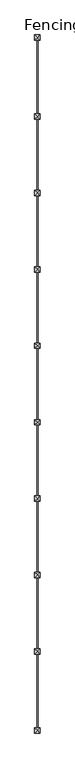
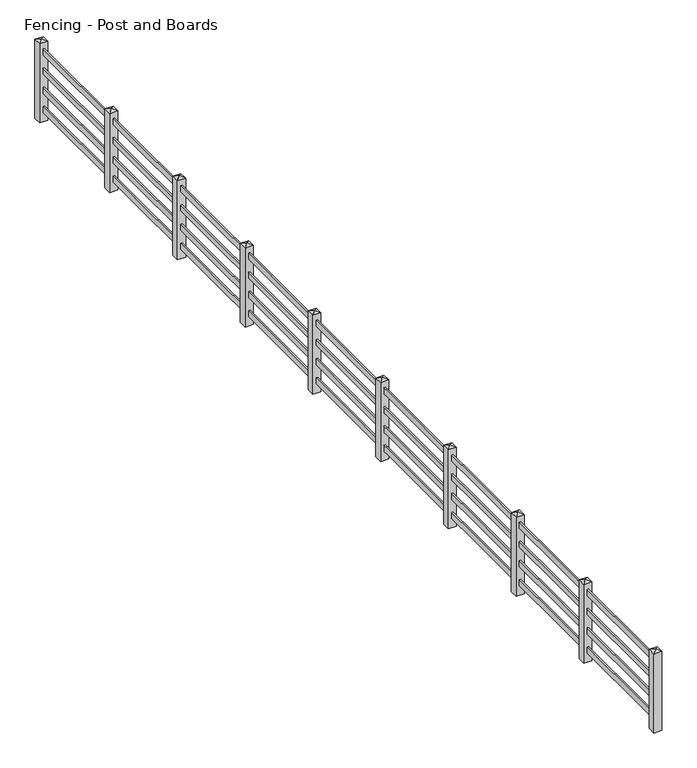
"""IFC4 building model written with IfcOpenShell, lengths in millimetres: railing geometry, Fencing - Post and Boards."""

from ifc_helpers import new_model, si_unit, frame, origin, place, context, project, spatial, polyline, outline, extrude, faceted_brep, source, transform, mapped, element, save


def fencing_post_and_boards_368ce008(model_context):
    return source(origin(), model_context, "Body", "SolidModel", [
        extrude(outline(polyline([(56783.4324334, -56479.0868221), (56763.4324334, -56479.0868221), (56763.4324334, -43479.0868221), (56783.4324334, -43479.0868221), (56783.4324334, -56479.0868221)])), frame((0.0, 0.0, 875.0), z_axis=(0.0, 0.0, 1.0), x_axis=(1.0, 0.0, 0.0)), (0.0, 0.0, 1.0), 75.0),
        extrude(outline(polyline([(56783.4324334, -56479.0868221), (56763.4324334, -56479.0868221), (56763.4324334, -43479.0868221), (56783.4324334, -43479.0868221), (56783.4324334, -56479.0868221)])), frame((0.0, 0.0, 625.0), z_axis=(0.0, 0.0, 1.0), x_axis=(1.0, 0.0, 0.0)), (0.0, 0.0, 1.0), 75.0),
        extrude(outline(polyline([(56783.4324334, -56479.0868221), (56763.4324334, -56479.0868221), (56763.4324334, -43479.0868221), (56783.4324334, -43479.0868221), (56783.4324334, -56479.0868221)])), frame((0.0, 0.0, 375.0), z_axis=(0.0, 0.0, 1.0), x_axis=(1.0, 0.0, 0.0)), (0.0, 0.0, 1.0), 75.0),
        extrude(outline(polyline([(56783.4324334, -56479.0868221), (56763.4324334, -56479.0868221), (56763.4324334, -43479.0868221), (56783.4324334, -43479.0868221), (56783.4324334, -56479.0868221)])), frame((0.0, 0.0, 125.0), z_axis=(0.0, 0.0, 1.0), x_axis=(1.0, 0.0, 0.0)), (0.0, 0.0, 1.0), 75.0),
        faceted_brep([(56723.4324334, -44873.5312665, 0.0), (56823.4324334, -44873.5312665, 0.0), (56823.4324334, -44973.5312665, 0.0), (56723.4324334, -44973.5312665, 0.0), (56723.4324334, -44973.5312665, 1027.8503862), (56723.4324334, -44873.5312665, 1027.8503862), (56823.4324334, -44973.5312665, 1027.8503862), (56823.4324334, -44873.5312665, 1027.8503862), (56773.4324334, -44923.5312665, 1050.0)], [[[0, 1, 2, 3]], [[0, 3, 4, 5]], [[3, 2, 6, 4]], [[2, 1, 7, 6]], [[1, 0, 5, 7]], [[5, 4, 8]], [[6, 7, 8]], [[7, 5, 8]], [[4, 6, 8]]]),
        faceted_brep([(56723.4324334, -46317.975711, 0.0), (56823.4324334, -46317.975711, 0.0), (56823.4324334, -46417.975711, 0.0), (56723.4324334, -46417.975711, 0.0), (56723.4324334, -46417.975711, 1027.8503862), (56723.4324334, -46317.975711, 1027.8503862), (56823.4324334, -46417.975711, 1027.8503862), (56823.4324334, -46317.975711, 1027.8503862), (56773.4324334, -46367.975711, 1050.0)], [[[0, 1, 2, 3]], [[0, 3, 4, 5]], [[3, 2, 6, 4]], [[2, 1, 7, 6]], [[1, 0, 5, 7]], [[5, 4, 8]], [[6, 7, 8]], [[7, 5, 8]], [[4, 6, 8]]]),
        faceted_brep([(56723.4324334, -47762.4201554, 0.0), (56823.4324334, -47762.4201554, 0.0), (56823.4324334, -47862.4201554, 0.0), (56723.4324334, -47862.4201554, 0.0), (56723.4324334, -47862.4201554, 1027.8503862), (56723.4324334, -47762.4201554, 1027.8503862), (56823.4324334, -47862.4201554, 1027.8503862), (56823.4324334, -47762.4201554, 1027.8503862), (56773.4324334, -47812.4201554, 1050.0)], [[[0, 1, 2, 3]], [[0, 3, 4, 5]], [[3, 2, 6, 4]], [[2, 1, 7, 6]], [[1, 0, 5, 7]], [[5, 4, 8]], [[6, 7, 8]], [[7, 5, 8]], [[4, 6, 8]]]),
        faceted_brep([(56723.4324334, -49206.8645998, 0.0), (56823.4324334, -49206.8645998, 0.0), (56823.4324334, -49306.8645998, 0.0), (56723.4324334, -49306.8645998, 0.0), (56723.4324334, -49306.8645998, 1027.8503862), (56723.4324334, -49206.8645998, 1027.8503862), (56823.4324334, -49306.8645998, 1027.8503862), (56823.4324334, -49206.8645998, 1027.8503862), (56773.4324334, -49256.8645998, 1050.0)], [[[0, 1, 2, 3]], [[0, 3, 4, 5]], [[3, 2, 6, 4]], [[2, 1, 7, 6]], [[1, 0, 5, 7]], [[5, 4, 8]], [[6, 7, 8]], [[7, 5, 8]], [[4, 6, 8]]]),
        faceted_brep([(56723.4324334, -50651.3090443, 0.0), (56823.4324334, -50651.3090443, 0.0), (56823.4324334, -50751.3090443, 0.0), (56723.4324334, -50751.3090443, 0.0), (56723.4324334, -50751.3090443, 1027.8503862), (56723.4324334, -50651.3090443, 1027.8503862), (56823.4324334, -50751.3090443, 1027.8503862), (56823.4324334, -50651.3090443, 1027.8503862), (56773.4324334, -50701.3090443, 1050.0)], [[[0, 1, 2, 3]], [[0, 3, 4, 5]], [[3, 2, 6, 4]], [[2, 1, 7, 6]], [[1, 0, 5, 7]], [[5, 4, 8]], [[6, 7, 8]], [[7, 5, 8]], [[4, 6, 8]]]),
        faceted_brep([(56723.4324334, -52095.7534887, 0.0), (56823.4324334, -52095.7534887, 0.0), (56823.4324334, -52195.7534887, 0.0), (56723.4324334, -52195.7534887, 0.0), (56723.4324334, -52195.7534887, 1027.8503862), (56723.4324334, -52095.7534887, 1027.8503862), (56823.4324334, -52195.7534887, 1027.8503862), (56823.4324334, -52095.7534887, 1027.8503862), (56773.4324334, -52145.7534887, 1050.0)], [[[0, 1, 2, 3]], [[0, 3, 4, 5]], [[3, 2, 6, 4]], [[2, 1, 7, 6]], [[1, 0, 5, 7]], [[5, 4, 8]], [[6, 7, 8]], [[7, 5, 8]], [[4, 6, 8]]]),
        faceted_brep([(56723.4324334, -53540.1979332, 0.0), (56823.4324334, -53540.1979332, 0.0), (56823.4324334, -53640.1979332, 0.0), (56723.4324334, -53640.1979332, 0.0), (56723.4324334, -53640.1979332, 1027.8503862), (56723.4324334, -53540.1979332, 1027.8503862), (56823.4324334, -53640.1979332, 1027.8503862), (56823.4324334, -53540.1979332, 1027.8503862), (56773.4324334, -53590.1979332, 1050.0)], [[[0, 1, 2, 3]], [[0, 3, 4, 5]], [[3, 2, 6, 4]], [[2, 1, 7, 6]], [[1, 0, 5, 7]], [[5, 4, 8]], [[6, 7, 8]], [[7, 5, 8]], [[4, 6, 8]]]),
        faceted_brep([(56723.4324334, -54984.6423776, 0.0), (56823.4324334, -54984.6423776, 0.0), (56823.4324334, -55084.6423776, 0.0), (56723.4324334, -55084.6423776, 0.0), (56723.4324334, -55084.6423776, 1027.8503862), (56723.4324334, -54984.6423776, 1027.8503862), (56823.4324334, -55084.6423776, 1027.8503862), (56823.4324334, -54984.6423776, 1027.8503862), (56773.4324334, -55034.6423776, 1050.0)], [[[0, 1, 2, 3]], [[0, 3, 4, 5]], [[3, 2, 6, 4]], [[2, 1, 7, 6]], [[1, 0, 5, 7]], [[5, 4, 8]], [[6, 7, 8]], [[7, 5, 8]], [[4, 6, 8]]]),
        faceted_brep([(56723.4324334, -43379.0868221, 0.0), (56823.4324334, -43379.0868221, 0.0), (56823.4324334, -43479.0868221, 0.0), (56723.4324334, -43479.0868221, 0.0), (56723.4324334, -43479.0868221, 1027.8503862), (56723.4324334, -43379.0868221, 1027.8503862), (56823.4324334, -43479.0868221, 1027.8503862), (56823.4324334, -43379.0868221, 1027.8503862), (56773.4324334, -43429.0868221, 1050.0)], [[[0, 1, 2, 3]], [[0, 3, 4, 5]], [[3, 2, 6, 4]], [[2, 1, 7, 6]], [[1, 0, 5, 7]], [[5, 4, 8]], [[6, 7, 8]], [[7, 5, 8]], [[4, 6, 8]]]),
        faceted_brep([(56723.4324334, -56479.0868221, 0.0), (56823.4324334, -56479.0868221, 0.0), (56823.4324334, -56579.0868221, 0.0), (56723.4324334, -56579.0868221, 0.0), (56723.4324334, -56579.0868221, 1027.8503862), (56723.4324334, -56479.0868221, 1027.8503862), (56823.4324334, -56579.0868221, 1027.8503862), (56823.4324334, -56479.0868221, 1027.8503862), (56773.4324334, -56529.0868221, 1050.0)], [[[0, 1, 2, 3]], [[0, 3, 4, 5]], [[3, 2, 6, 4]], [[2, 1, 7, 6]], [[1, 0, 5, 7]], [[5, 4, 8]], [[6, 7, 8]], [[7, 5, 8]], [[4, 6, 8]]]),
    ])


if __name__ == "__main__":
    model = new_model("IFC4")
    model_context = context("Model", 3, world=origin())
    ifc_project = project(units=[si_unit("LENGTHUNIT", "METRE", prefix="MILLI")], contexts=[model_context])
    site = spatial("IfcSite", under=ifc_project)
    building = spatial("IfcBuilding", under=site)
    placement = place(None, origin())
    fencing_post_and_boards_shape = fencing_post_and_boards_368ce008(model_context)
    element("IfcRailing", 1, ObjectType="Fencing - Post and Boards", at=placement, inside=building, context=model_context, shape_type="MappedRepresentation", body=[
        mapped(fencing_post_and_boards_shape, transform((0.0, 0.0, 0.0), x_axis=(1.0, 0.0, 0.0), y_axis=(0.0, 1.0, 0.0), z_axis=(0.0, 0.0, 1.0))),
    ])
    save(model, "model.ifc")
